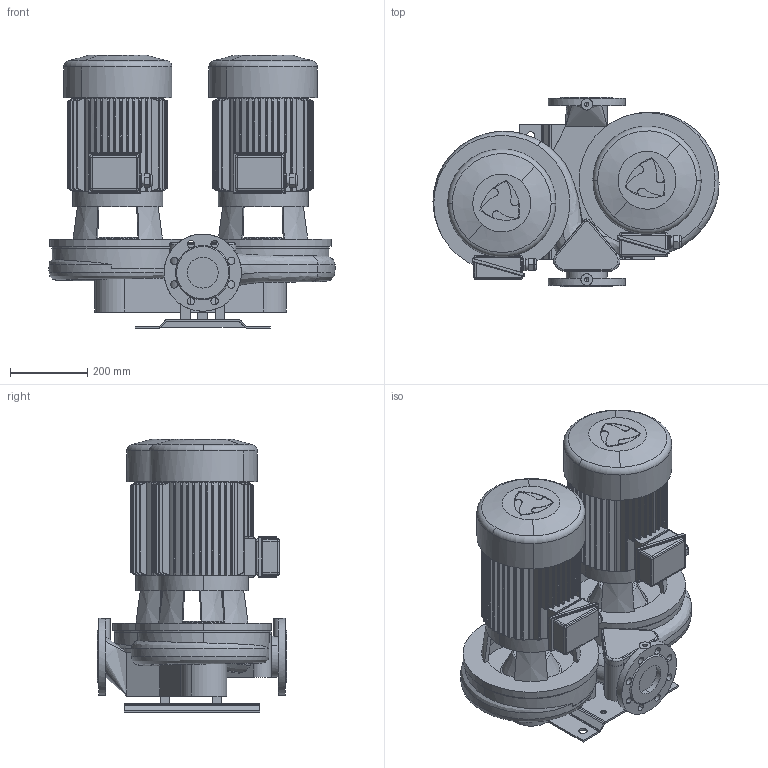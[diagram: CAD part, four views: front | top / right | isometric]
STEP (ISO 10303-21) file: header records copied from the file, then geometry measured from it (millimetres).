
FILE_DESCRIPTION(('STEP AP214'),'1');
FILE_NAME('export.stp','2018-05-30T08:14:24',(' '),(' '),'Spatial InterOp 3D',' ',' ');
FILE_SCHEMA(('AUTOMOTIVE_DESIGN { 1 0 10303 214 1 1 1 1 }'));
Length unit declared in the file: millimetre
Products named in the file (17): W_T80S4550-KP133; V_TLL50S80S; V_PPT80S; P100496; P100495; P100342; V_MOKN133; RU_OKN_133; TSUOJA_OKN_132_133; KYTKOTELO_OKN_100_133; V_MKP-133-G2-F29; V_EKF29OKN132
Assembly tree (19 placements, depth 4):
  W_T80S4550-KP133
    V_TLL50S80S  x2
    V_PPT80S
    P100496
      P100495  x2
      P100342
    V_MKP-133-G2-F29
      V_MOKN133
        RU_OKN_133
        TSUOJA_OKN_132_133
        KYTKOTELO_OKN_100_133
      V_EKF29OKN132
    V_MKP-133-G2-F29
      V_MOKN133
        RU_OKN_133
        TSUOJA_OKN_132_133
        KYTKOTELO_OKN_100_133
      V_EKF29OKN132
Bounding box: 740.45 x 490 x 707.5 mm (x, y, z)
Volume: 71733298.8 mm3; surface area: 4721457 mm2
Topology: 14 solids, 16 shells, 1389 faces, 3582 edges, 2229 vertices
Faces by surface type: cylinder 581, plane 499, cone 188, bspline 71, torus 26, sphere 24
Entity records: 72783 total; most frequent: CARTESIAN_POINT 17889, ORIENTED_EDGE 6820, DIRECTION 6190, STYLED_ITEM 3942, PRESENTATION_STYLE_ASSIGNMENT 3942, COLOUR_RGB 3942, EDGE_CURVE 3410, CURVE_STYLE 2596
